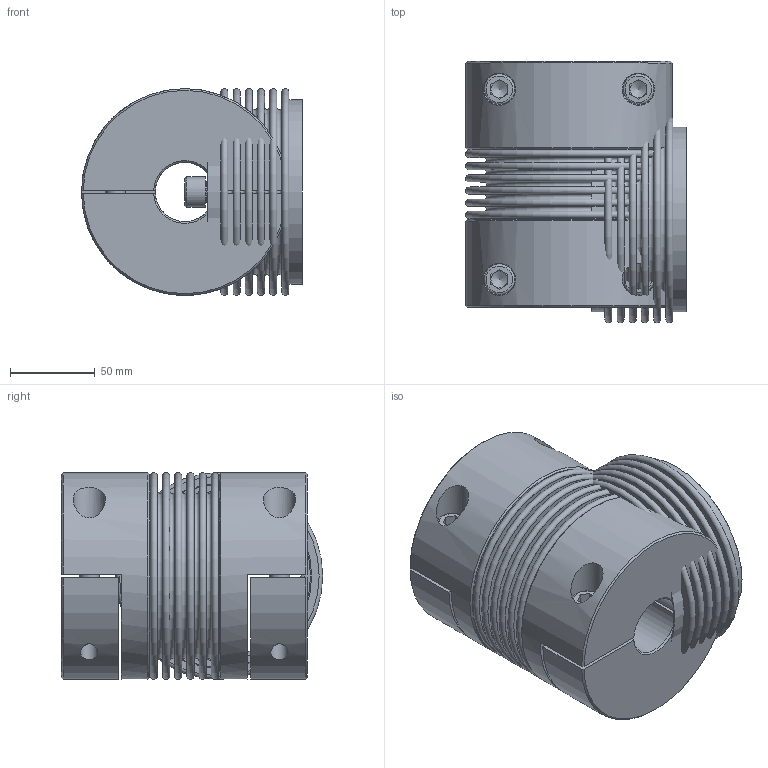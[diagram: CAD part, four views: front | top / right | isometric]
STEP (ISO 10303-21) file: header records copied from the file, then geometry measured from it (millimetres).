
FILE_DESCRIPTION( ( 'Unknown' ), '1' );
FILE_NAME( 'C:/Dokumente und Einstellungen/SKarpstein/Desktop/hp kbk/KB4H-500-146.stp', 'Unknown', ( 'Unknown' ), ( 'Unknown' ), 'XStep 1.0', 'Unknown', ' ' );
FILE_SCHEMA( ( 'automotive_design' ) );
Length unit declared in the file: millimetre
Products named in the file (5): Assem1; KN4H-500; Socket Head Cap Screw_DIN_DIN 912 M12 x 55 --- 55N_1; BL500_Standard_1
Bounding box: 130.4 x 154.2 x 122 mm (x, y, z)
Volume: 1661180.3 mm3; surface area: 465681.4 mm2
Topology: 13 solids, 13 shells, 296 faces, 588 edges, 374 vertices
Faces by surface type: plane 160, torus 60, cylinder 48, cone 28
Full cylindrical faces by diameter (mm): 10.106 x6, 12 x5, 12.5 x6, 18 x5, 19 x6, 35 x3, 107.7 x4, 108.9 x4, 122 x3
Entity records: 3210 total; most frequent: CARTESIAN_POINT 743, DIRECTION 446, ORIENTED_EDGE 286, AXIS2_PLACEMENT_3D 203, EDGE_LOOP 184, EDGE_CURVE 143, FACE_OUTER_BOUND 142, VERTEX_POINT 120
